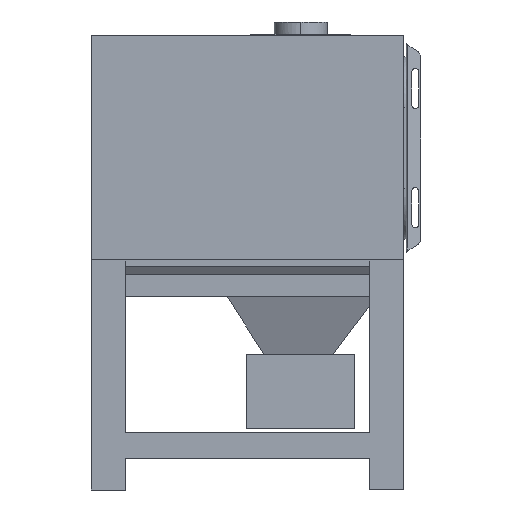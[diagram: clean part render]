
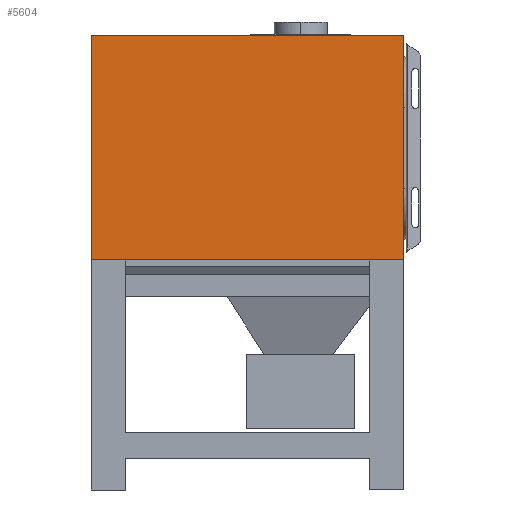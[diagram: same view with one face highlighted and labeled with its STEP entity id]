
A CAD part, left-side view. The second image highlights one B-rep face of the part: STEP entity #5604.
In plain terms, the highlighted free-form (B-spline) face has degree [3, 3] with [4, 4] control points.
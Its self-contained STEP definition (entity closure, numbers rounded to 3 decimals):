
#701=ORIENTED_EDGE('trim curve',*,*,#1330,.T.);
#702=ORIENTED_EDGE('trim curve',*,*,#999,.F.);
#703=ORIENTED_EDGE('trim curve',*,*,#1105,.T.);
#704=ORIENTED_EDGE('trim curve',*,*,#1006,.F.);
#705=ORIENTED_EDGE('trim curve',*,*,#1331,.T.);
#706=ORIENTED_EDGE('trim curve',*,*,#1332,.T.);
#763=VERTEX_POINT('Trimming Point',#2132);
#764=VERTEX_POINT('Trimming Point',#2135);
#769=VERTEX_POINT('Trimming Point',#2159);
#770=VERTEX_POINT('Trimming Point',#2163);
#977=VERTEX_POINT('Trimming Point',#5252);
#978=VERTEX_POINT('Trimming Point',#5259);
#999=EDGE_CURVE('Edge Curve',#763,#764,#1355,.T.);
#1006=EDGE_CURVE('Edge Curve',#769,#770,#1362,.T.);
#1105=EDGE_CURVE('Edge Curve',#763,#770,#1461,.T.);
#1330=EDGE_CURVE('Edge Curve',#977,#764,#1686,.T.);
#1331=EDGE_CURVE('Edge Curve',#769,#978,#1687,.T.);
#1332=EDGE_CURVE('Edge Curve',#978,#977,#1688,.T.);
#1355=(
BOUNDED_CURVE()
B_SPLINE_CURVE(3,(#2132,#2133,#2134,#2135),.UNSPECIFIED.,.U.,.U.)
B_SPLINE_CURVE_WITH_KNOTS((4,4),(0.891,1.),.UNSPECIFIED.)
CURVE()
GEOMETRIC_REPRESENTATION_ITEM()
RATIONAL_B_SPLINE_CURVE((1.,1.,1.,1.))
REPRESENTATION_ITEM('node')
);
#1362=(
BOUNDED_CURVE()
B_SPLINE_CURVE(3,(#2160,#2161,#2162,#2163),.UNSPECIFIED.,.U.,.U.)
B_SPLINE_CURVE_WITH_KNOTS((4,4),(0.,0.109),.UNSPECIFIED.)
CURVE()
GEOMETRIC_REPRESENTATION_ITEM()
RATIONAL_B_SPLINE_CURVE((1.,1.,1.,1.))
REPRESENTATION_ITEM('node')
);
#1461=(
BOUNDED_CURVE()
B_SPLINE_CURVE(3,(#2782,#2783,#2784,#2785),.UNSPECIFIED.,.U.,.U.)
B_SPLINE_CURVE_WITH_KNOTS((4,4),(0.,1.),.UNSPECIFIED.)
CURVE()
GEOMETRIC_REPRESENTATION_ITEM()
RATIONAL_B_SPLINE_CURVE((1.,1.,1.,1.))
REPRESENTATION_ITEM('node')
);
#1686=(
BOUNDED_CURVE()
B_SPLINE_CURVE(3,(#5252,#5253,#5254,#5255),.UNSPECIFIED.,.U.,.U.)
B_SPLINE_CURVE_WITH_KNOTS((4,4),(0.,1.),.UNSPECIFIED.)
CURVE()
GEOMETRIC_REPRESENTATION_ITEM()
RATIONAL_B_SPLINE_CURVE((1.,1.,1.,1.))
REPRESENTATION_ITEM('node')
);
#1687=(
BOUNDED_CURVE()
B_SPLINE_CURVE(3,(#5256,#5257,#5258,#5259),.UNSPECIFIED.,.U.,.U.)
B_SPLINE_CURVE_WITH_KNOTS((4,4),(0.,1.),.UNSPECIFIED.)
CURVE()
GEOMETRIC_REPRESENTATION_ITEM()
RATIONAL_B_SPLINE_CURVE((1.,1.,1.,1.))
REPRESENTATION_ITEM('node')
);
#1688=(
BOUNDED_CURVE()
B_SPLINE_CURVE(3,(#5260,#5261,#5262,#5263),.UNSPECIFIED.,.U.,.U.)
B_SPLINE_CURVE_WITH_KNOTS((4,4),(0.,1.),.UNSPECIFIED.)
CURVE()
GEOMETRIC_REPRESENTATION_ITEM()
RATIONAL_B_SPLINE_CURVE((1.,1.,1.,1.))
REPRESENTATION_ITEM('node')
);
#1826=EDGE_LOOP('trim boundary',(#701,#702,#703,#704,#705,#706));
#1958=FACE_OUTER_BOUND('Boundary Edges',#1826,.T.);
#2132=CARTESIAN_POINT('CVs',(1882.859,575.,1081.395));
#2133=CARTESIAN_POINT('CVs',(1882.859,628.333,1081.395));
#2134=CARTESIAN_POINT('CVs',(1882.859,681.667,1081.395));
#2135=CARTESIAN_POINT('CVs',(1882.859,735.,1081.395));
#2159=CARTESIAN_POINT('CVs',(1882.859,-735.,1081.395));
#2160=CARTESIAN_POINT('CVs',(1882.859,-735.,1081.395));
#2161=CARTESIAN_POINT('CVs',(1882.859,-681.667,1081.395));
#2162=CARTESIAN_POINT('CVs',(1882.859,-628.333,1081.395));
#2163=CARTESIAN_POINT('CVs',(1882.859,-575.,1081.395));
#2782=CARTESIAN_POINT('CVs',(1882.859,575.,1081.395));
#2783=CARTESIAN_POINT('CVs',(1882.859,191.667,1081.395));
#2784=CARTESIAN_POINT('CVs',(1882.859,-191.667,1081.395));
#2785=CARTESIAN_POINT('CVs',(1882.859,-575.,1081.395));
#5236=CARTESIAN_POINT('CVs',(1882.859,735.,2135.467));
#5237=CARTESIAN_POINT('CVs',(1882.859,245.,2135.467));
#5238=CARTESIAN_POINT('CVs',(1882.859,-245.,2135.467));
#5239=CARTESIAN_POINT('CVs',(1882.859,-735.,2135.467));
#5240=CARTESIAN_POINT('CVs',(1882.859,735.,1784.11));
#5241=CARTESIAN_POINT('CVs',(1882.859,245.,1784.11));
#5242=CARTESIAN_POINT('CVs',(1882.859,-245.,1784.11));
#5243=CARTESIAN_POINT('CVs',(1882.859,-735.,1784.11));
#5244=CARTESIAN_POINT('CVs',(1882.859,735.,1432.753));
#5245=CARTESIAN_POINT('CVs',(1882.859,245.,1432.753));
#5246=CARTESIAN_POINT('CVs',(1882.859,-245.,1432.753));
#5247=CARTESIAN_POINT('CVs',(1882.859,-735.,1432.753));
#5248=CARTESIAN_POINT('CVs',(1882.859,735.,1081.395));
#5249=CARTESIAN_POINT('CVs',(1882.859,245.,1081.395));
#5250=CARTESIAN_POINT('CVs',(1882.859,-245.,1081.395));
#5251=CARTESIAN_POINT('CVs',(1882.859,-735.,1081.395));
#5252=CARTESIAN_POINT('CVs',(1882.859,735.,2135.467));
#5253=CARTESIAN_POINT('CVs',(1882.859,735.,1784.11));
#5254=CARTESIAN_POINT('CVs',(1882.859,735.,1432.753));
#5255=CARTESIAN_POINT('CVs',(1882.859,735.,1081.395));
#5256=CARTESIAN_POINT('CVs',(1882.859,-735.,1081.395));
#5257=CARTESIAN_POINT('CVs',(1882.859,-735.,1432.753));
#5258=CARTESIAN_POINT('CVs',(1882.859,-735.,1784.11));
#5259=CARTESIAN_POINT('CVs',(1882.859,-735.,2135.467));
#5260=CARTESIAN_POINT('CVs',(1882.859,-735.,2135.467));
#5261=CARTESIAN_POINT('CVs',(1882.859,-245.,2135.467));
#5262=CARTESIAN_POINT('CVs',(1882.859,245.,2135.467));
#5263=CARTESIAN_POINT('CVs',(1882.859,735.,2135.467));
#5475=(
BOUNDED_SURFACE()
B_SPLINE_SURFACE(3,3,((#5236,#5237,#5238,#5239),(#5240,#5241,#5242,#5243),
(#5244,#5245,#5246,#5247),(#5248,#5249,#5250,#5251)),.UNSPECIFIED.,.U.,.U.,
 .U.)
B_SPLINE_SURFACE_WITH_KNOTS((4,4),(4,4),(0.,1.),(0.,1.),.UNSPECIFIED.)
GEOMETRIC_REPRESENTATION_ITEM()
RATIONAL_B_SPLINE_SURFACE(((1.,1.,1.,1.),(1.,1.,1.,1.),(1.,1.,1.,1.),(1.,
1.,1.,1.)))
REPRESENTATION_ITEM('trim region')
SURFACE()
);
#5604=ADVANCED_FACE('trim region',(#1958),#5475,.T.);
